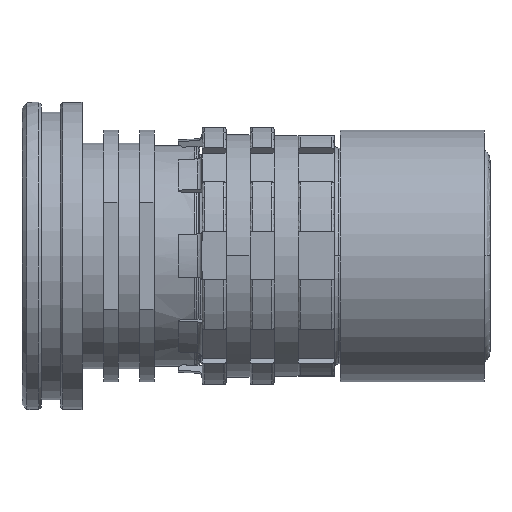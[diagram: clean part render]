
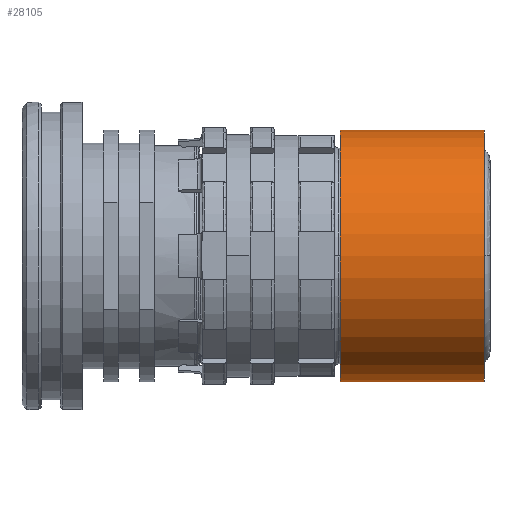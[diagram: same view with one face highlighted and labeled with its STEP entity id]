
A CAD part, top view. The second image highlights one B-rep face of the part: STEP entity #28105.
In plain terms, the highlighted cylindrical face has radius 5.25 mm (diameter 10.5 mm), a partial arc.
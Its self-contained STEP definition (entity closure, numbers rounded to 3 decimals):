
#7436=CARTESIAN_POINT('',(13.25,0.,0.));
#7437=DIRECTION('',(1.,0.,0.));
#7438=DIRECTION('',(0.,1.,0.));
#7439=AXIS2_PLACEMENT_3D('',#7436,#7437,#7438);
#7461=DIRECTION('',(1.,0.,0.));
#7462=VECTOR('',#7461,6.);
#7463=CARTESIAN_POINT('',(13.25,-5.25,0.));
#7464=LINE('',#7463,#7462);
#7465=DIRECTION('',(1.,0.,0.));
#7466=VECTOR('',#7465,6.);
#7467=CARTESIAN_POINT('',(13.25,5.25,0.));
#7468=LINE('',#7467,#7466);
#7469=CARTESIAN_POINT('',(19.25,0.,0.));
#7470=DIRECTION('',(-1.,0.,0.));
#7471=DIRECTION('',(0.,-1.,0.));
#7472=AXIS2_PLACEMENT_3D('',#7469,#7470,#7471);
#14563=CARTESIAN_POINT('',(13.25,-5.25,0.));
#14564=CARTESIAN_POINT('',(13.25,5.25,0.));
#14565=VERTEX_POINT('',#14563);
#14566=VERTEX_POINT('',#14564);
#14567=CARTESIAN_POINT('',(19.25,5.25,0.));
#14568=VERTEX_POINT('',#14567);
#14569=CARTESIAN_POINT('',(19.25,-5.25,0.));
#14570=VERTEX_POINT('',#14569);
#28093=CARTESIAN_POINT('',(12.95,0.,0.));
#28094=DIRECTION('',(1.,0.,0.));
#28095=DIRECTION('',(0.,-1.,0.));
#28096=AXIS2_PLACEMENT_3D('',#28093,#28094,#28095);
#28097=CYLINDRICAL_SURFACE('',#28096,5.25);
#28098=ORIENTED_EDGE('',*,*,#28076,.T.);
#28100=ORIENTED_EDGE('',*,*,#28099,.F.);
#28101=ORIENTED_EDGE('',*,*,#28079,.F.);
#28102=ORIENTED_EDGE('',*,*,#28053,.F.);
#28103=EDGE_LOOP('',(#28098,#28100,#28101,#28102));
#28104=FACE_OUTER_BOUND('',#28103,.F.);
#7440=CIRCLE('',#7439,5.25);
#7473=CIRCLE('',#7472,5.25);
#28053=EDGE_CURVE('',#14566,#14565,#7440,.T.);
#28076=EDGE_CURVE('',#14566,#14568,#7468,.T.);
#28079=EDGE_CURVE('',#14565,#14570,#7464,.T.);
#28099=EDGE_CURVE('',#14570,#14568,#7473,.T.);
#28105=ADVANCED_FACE('',(#28104),#28097,.T.);
